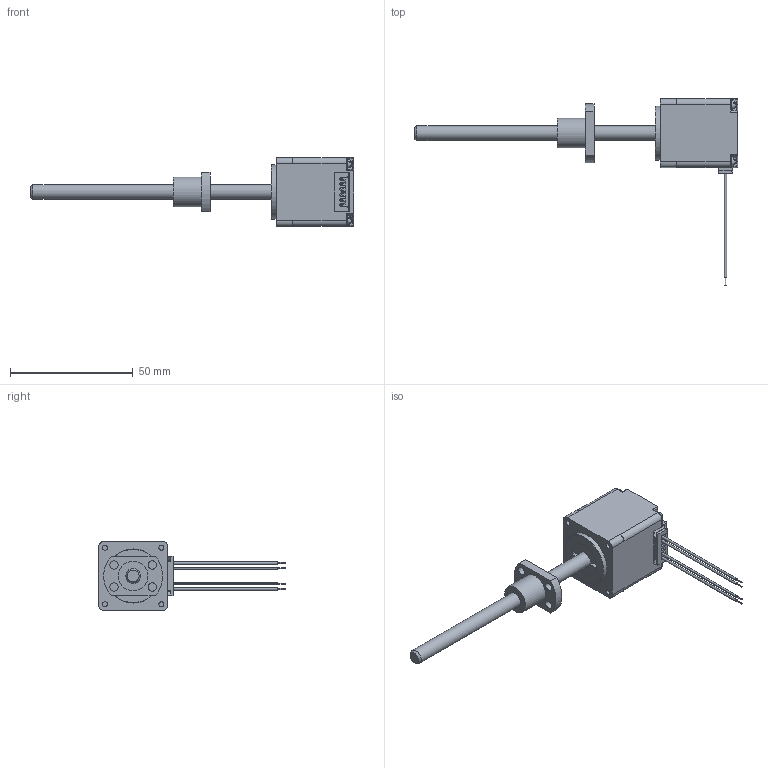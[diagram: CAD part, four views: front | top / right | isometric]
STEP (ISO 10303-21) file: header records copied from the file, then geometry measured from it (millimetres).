
FILE_DESCRIPTION( ('This file contains a STEP AP42 implementation' ,'as created by ZW3D STEP Interface translator.' ,'') ,'2;1' );
FILE_NAME( '28EA4X-2.1-XXX-B.stp' ,'26 119.171931', (''), ('ZWCAD Software Co.'), 'Version 1.0', 'ZW3D to STEP translator', '' );
FILE_SCHEMA(('AUTOMOTIVE_DESIGN { 1 0 10303 214 1 1 1 1 }'));
Length unit declared in the file: millimetre
Products named in the file (1): 0
Bounding box: 131.55 x 75.9 x 28 mm (x, y, z)
Volume: 15351.6 mm3; surface area: 15637.4 mm2
Topology: 4 solids, 4 shells, 772 faces, 2059 edges, 1297 vertices
Faces by surface type: plane 520, cylinder 208, torus 18, bspline 13, sphere 8, cone 5
Full cylindrical faces by diameter (mm): 0.5 x6, 0.9 x1, 1 x2, 1.4 x8, 2.05 x4, 3.4 x4, 4.2 x1, 6 x3, 7.11 x1, 8.5 x1, 12 x1, 14 x1, 22 x1, 24.081 x2
Entity records: 24957 total; most frequent: CARTESIAN_POINT 4680, ORIENTED_EDGE 4118, DIRECTION 4031, EDGE_CURVE 2059, VECTOR 1387, LINE 1387, AXIS2_PLACEMENT_3D 1322, VERTEX_POINT 1297
